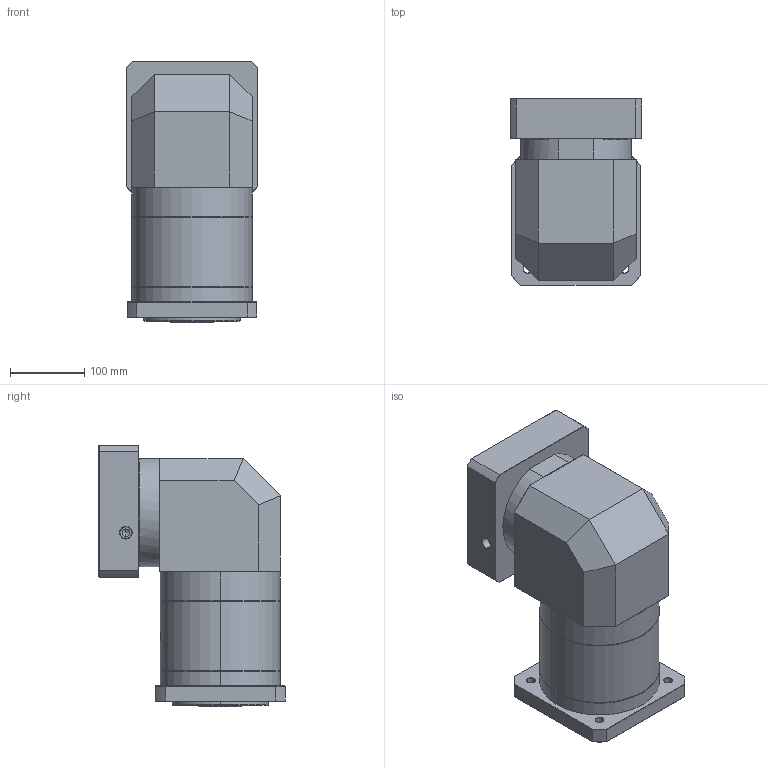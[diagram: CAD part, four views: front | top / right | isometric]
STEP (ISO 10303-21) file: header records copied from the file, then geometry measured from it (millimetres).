
FILE_DESCRIPTION (( 'STEP AP214' ), '1' );
FILE_NAME ('ZFR160A-K35-L3-P2-32-150-185-M10.step', '2023-09-03T09:03:34', ( '' ), ( '' ), 'SwSTEP 2.0', 'SolidWorks 2016', '' );
FILE_SCHEMA (( 'AUTOMOTIVE_DESIGN' ));
Length unit declared in the file: millimetre
Products named in the file (1): ZFR160A-K35-L3-P2-32-150-185-M10
Bounding box: 178 x 251.5 x 352.7 mm (x, y, z)
Volume: 8640296 mm3; surface area: 504896.7 mm2
Topology: 6 solids, 6 shells, 2148 faces, 5666 edges, 3625 vertices
Faces by surface type: plane 1039, bspline 407, cylinder 379, cone 303, torus 20
Entity records: 119930 total; most frequent: CARTESIAN_POINT 48377, ORIENTED_EDGE 11276, DIRECTION 8165, EDGE_CURVE 5638, VERTEX_POINT 3625, LINE 3033, VECTOR 3033, AXIS2_PLACEMENT_3D 2566
